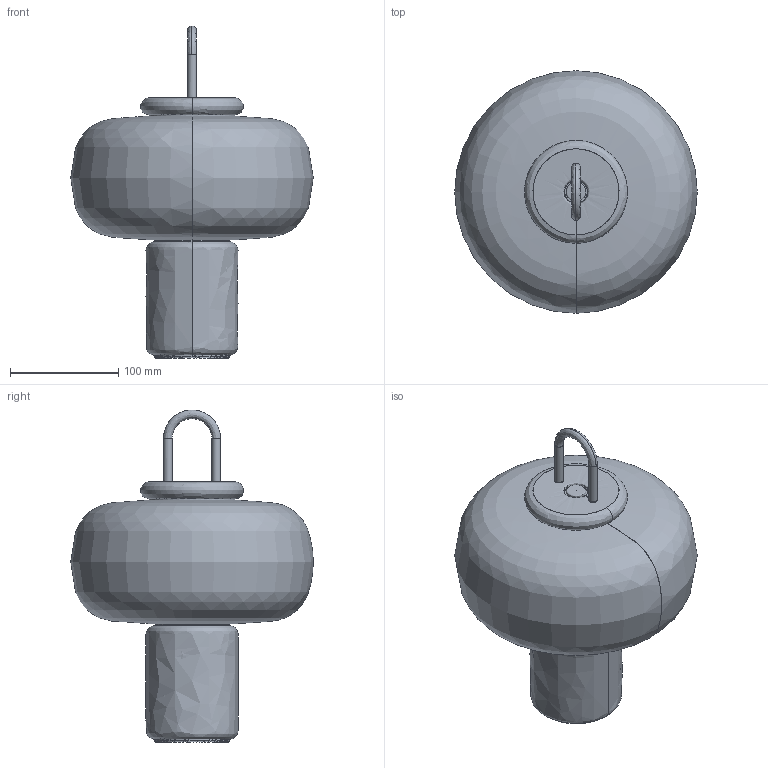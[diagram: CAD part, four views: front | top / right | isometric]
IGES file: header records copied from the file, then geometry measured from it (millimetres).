
Global section: file name: /Users/nicholas/Desktop/CAD/Nox/Nox.igs; preprocessor: Trout Lake IGES 012 Jul 15 2015; date: 180904.134527; units: millimetre
Bounding box: 224 x 224 x 306.66 mm (x, y, z)
Surface area: 335597.8 mm2 (no closed solid volume)
Topology: 0 solids, 0 shells, 20 faces, 109 edges, 80 vertices
Faces by surface type: bspline 20
